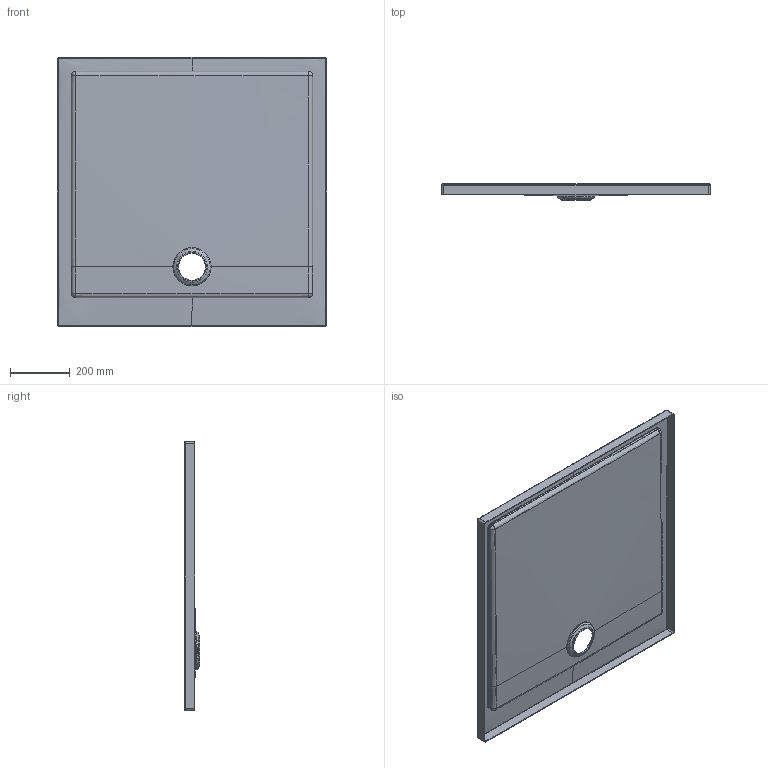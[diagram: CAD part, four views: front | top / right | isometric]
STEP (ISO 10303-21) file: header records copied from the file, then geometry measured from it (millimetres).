
FILE_DESCRIPTION((''),'2;1');
FILE_NAME('SUBWAY_SHOWERTRAY','2024-05-15T11:45:40',('hegemanc'),('Villeroy & Boch Wellness bv'),'CREO PARAMETRIC BY PTC INC, 2022414','CREO PARAMETRIC BY PTC INC, 2022414','');
FILE_SCHEMA(('AUTOMOTIVE_DESIGN { 1 0 10303 214 1 1 1 1 }'));
Length unit declared in the file: millimetre
Products named in the file (1): SUBWAY_SHOWERTRAY
Bounding box: 900 x 52.96 x 900 mm (x, y, z)
Volume: 2923891 mm3; surface area: 1961065.3 mm2
Topology: 1 solids, 1 shells, 125 faces, 286 edges, 172 vertices
Faces by surface type: bspline 56, cylinder 22, plane 19, torus 12, sphere 8, cone 8
Entity records: 17513 total; most frequent: CARTESIAN_POINT 13306, COLOUR_RGB 1450, ORIENTED_EDGE 556, DIRECTION 432, EDGE_CURVE 278, AXIS2_PLACEMENT_3D 185, VERTEX_POINT 156, EDGE_LOOP 128
